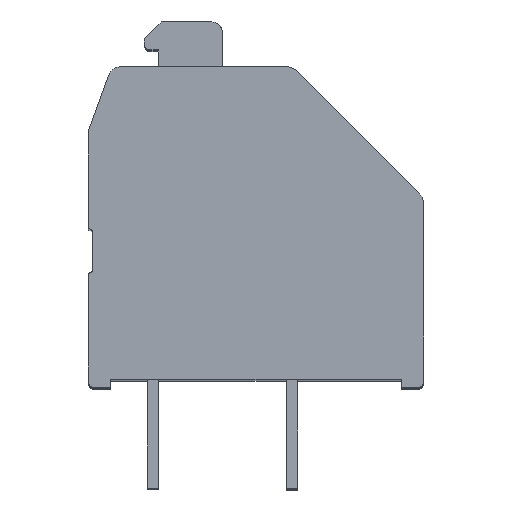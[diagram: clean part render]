
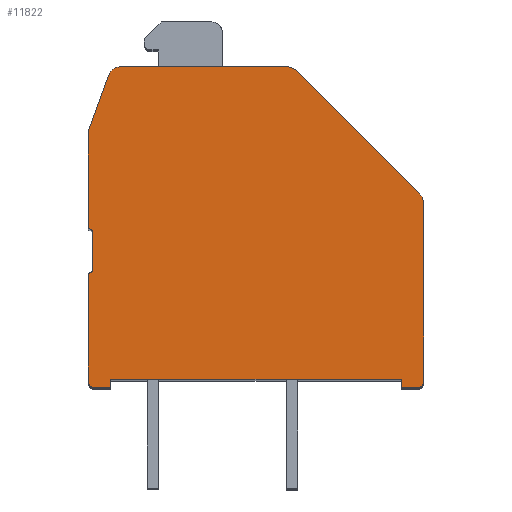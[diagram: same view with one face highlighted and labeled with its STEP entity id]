
A CAD part, top view. The second image highlights one B-rep face of the part: STEP entity #11822.
In plain terms, the highlighted planar face has unit normal (0, 0, 1).
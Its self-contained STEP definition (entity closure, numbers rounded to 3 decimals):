
#62=CIRCLE('',#12213,0.5);
#149=CIRCLE('',#12517,0.15);
#151=CIRCLE('',#12521,0.15);
#153=CIRCLE('',#12526,0.5);
#155=CIRCLE('',#12529,0.5);
#214=CIRCLE('',#12731,0.2);
#215=CIRCLE('',#12737,0.2);
#481=PLANE('',#12738);
#788=LINE('',#16540,#2203);
#1203=LINE('',#17609,#2618);
#1415=LINE('',#18130,#2830);
#1420=LINE('',#18141,#2835);
#1425=LINE('',#18155,#2840);
#1432=LINE('',#18172,#2847);
#1515=LINE('',#18312,#2930);
#1520=LINE('',#18328,#2935);
#1695=LINE('',#18823,#3110);
#1696=LINE('',#18825,#3111);
#1698=LINE('',#18829,#3113);
#1700=LINE('',#18833,#3115);
#2203=VECTOR('',#13167,1000.);
#2618=VECTOR('',#14092,1000.);
#2830=VECTOR('',#14526,1000.);
#2835=VECTOR('',#14533,1000.);
#2840=VECTOR('',#14546,1000.);
#2847=VECTOR('',#14561,1000.);
#2930=VECTOR('',#14646,1000.);
#2935=VECTOR('',#14665,1000.);
#3110=VECTOR('',#15244,1000.);
#3111=VECTOR('',#15247,1000.);
#3113=VECTOR('',#15251,1000.);
#3115=VECTOR('',#15255,1000.);
#5577=ORIENTED_EDGE('',*,*,#7922,.T.);
#5578=ORIENTED_EDGE('',*,*,#7926,.F.);
#5579=ORIENTED_EDGE('',*,*,#7929,.T.);
#5580=ORIENTED_EDGE('',*,*,#7932,.F.);
#5581=ORIENTED_EDGE('',*,*,#7938,.T.);
#5582=ORIENTED_EDGE('',*,*,#8262,.T.);
#5583=ORIENTED_EDGE('',*,*,#8264,.T.);
#5584=ORIENTED_EDGE('',*,*,#8265,.T.);
#5585=ORIENTED_EDGE('',*,*,#7917,.T.);
#5586=ORIENTED_EDGE('',*,*,#8267,.T.);
#5587=ORIENTED_EDGE('',*,*,#8269,.T.);
#5588=ORIENTED_EDGE('',*,*,#8270,.T.);
#5589=ORIENTED_EDGE('',*,*,#8021,.T.);
#5590=ORIENTED_EDGE('',*,*,#8025,.T.);
#5591=ORIENTED_EDGE('',*,*,#7108,.T.);
#5592=ORIENTED_EDGE('',*,*,#7180,.T.);
#5593=ORIENTED_EDGE('',*,*,#7651,.T.);
#5594=ORIENTED_EDGE('',*,*,#8028,.T.);
#5595=ORIENTED_EDGE('',*,*,#8030,.T.);
#7108=EDGE_CURVE('',#8846,#8845,#788,.T.);
#7180=EDGE_CURVE('',#8845,#8903,#62,.T.);
#7651=EDGE_CURVE('',#8903,#9244,#1203,.T.);
#7917=EDGE_CURVE('',#9443,#9442,#1415,.T.);
#7922=EDGE_CURVE('',#9448,#9447,#1420,.T.);
#7926=EDGE_CURVE('',#9450,#9447,#149,.T.);
#7929=EDGE_CURVE('',#9450,#9452,#1425,.T.);
#7932=EDGE_CURVE('',#9454,#9452,#151,.T.);
#7938=EDGE_CURVE('',#9454,#9458,#1432,.T.);
#8021=EDGE_CURVE('',#9515,#9514,#1515,.T.);
#8025=EDGE_CURVE('',#9514,#8846,#153,.T.);
#8028=EDGE_CURVE('',#9244,#9518,#155,.T.);
#8030=EDGE_CURVE('',#9518,#9448,#1520,.T.);
#8262=EDGE_CURVE('',#9458,#9635,#214,.T.);
#8264=EDGE_CURVE('',#9635,#9636,#1695,.T.);
#8265=EDGE_CURVE('',#9636,#9443,#1696,.T.);
#8267=EDGE_CURVE('',#9442,#9637,#1698,.T.);
#8269=EDGE_CURVE('',#9637,#9638,#1700,.T.);
#8270=EDGE_CURVE('',#9638,#9515,#215,.T.);
#8845=VERTEX_POINT('',#16539);
#8846=VERTEX_POINT('',#16541);
#8903=VERTEX_POINT('',#16682);
#9244=VERTEX_POINT('',#17608);
#9442=VERTEX_POINT('',#18129);
#9443=VERTEX_POINT('',#18131);
#9447=VERTEX_POINT('',#18140);
#9448=VERTEX_POINT('',#18142);
#9450=VERTEX_POINT('',#18148);
#9452=VERTEX_POINT('',#18154);
#9454=VERTEX_POINT('',#18160);
#9458=VERTEX_POINT('',#18171);
#9514=VERTEX_POINT('',#18311);
#9515=VERTEX_POINT('',#18313);
#9518=VERTEX_POINT('',#18324);
#9635=VERTEX_POINT('',#18818);
#9636=VERTEX_POINT('',#18822);
#9637=VERTEX_POINT('',#18828);
#9638=VERTEX_POINT('',#18832);
#10401=EDGE_LOOP('',(#5577,#5578,#5579,#5580,#5581,#5582,#5583,#5584,#5585,
#5586,#5587,#5588,#5589,#5590,#5591,#5592,#5593,#5594,#5595));
#11066=FACE_BOUND('',#10401,.T.);
#11822=ADVANCED_FACE('',(#11066),#481,.T.);
#12213=AXIS2_PLACEMENT_3D('',#16683,#13317,#13318);
#12517=AXIS2_PLACEMENT_3D('',#18149,#14540,#14541);
#12521=AXIS2_PLACEMENT_3D('',#18161,#14552,#14553);
#12526=AXIS2_PLACEMENT_3D('',#18319,#14653,#14654);
#12529=AXIS2_PLACEMENT_3D('',#18325,#14660,#14661);
#12731=AXIS2_PLACEMENT_3D('',#18819,#15239,#15240);
#12737=AXIS2_PLACEMENT_3D('',#18835,#15258,#15259);
#12738=AXIS2_PLACEMENT_3D('',#18836,#15260,#15261);
#13167=DIRECTION('',(-0.707,0.707,0.));
#13317=DIRECTION('',(0.,0.,1.));
#13318=DIRECTION('',(1.,0.,0.));
#14092=DIRECTION('',(-1.,0.,0.));
#14526=DIRECTION('',(1.,0.,0.));
#14533=DIRECTION('',(0.,-1.,0.));
#14540=DIRECTION('',(0.,0.,1.));
#14541=DIRECTION('',(1.,0.,0.));
#14546=DIRECTION('',(0.,-1.,0.));
#14552=DIRECTION('',(0.,0.,1.));
#14553=DIRECTION('',(1.,0.,0.));
#14561=DIRECTION('',(0.,-1.,0.));
#14646=DIRECTION('',(0.,1.,0.));
#14653=DIRECTION('',(0.,0.,1.));
#14654=DIRECTION('',(1.,0.,0.));
#14660=DIRECTION('',(0.,0.,1.));
#14661=DIRECTION('',(1.,0.,0.));
#14665=DIRECTION('',(-0.342,-0.94,0.));
#15239=DIRECTION('',(0.,0.,1.));
#15240=DIRECTION('',(1.,0.,0.));
#15244=DIRECTION('',(1.,0.,0.));
#15247=DIRECTION('',(0.,1.,0.));
#15251=DIRECTION('',(0.,-1.,0.));
#15255=DIRECTION('',(1.,0.,0.));
#15258=DIRECTION('',(0.,0.,1.));
#15259=DIRECTION('',(1.,0.,0.));
#15260=DIRECTION('',(0.,0.,1.));
#15261=DIRECTION('',(1.,0.,0.));
#16539=CARTESIAN_POINT('',(0.146,11.354,37.06));
#16540=CARTESIAN_POINT('',(4.554,6.946,37.06));
#16541=CARTESIAN_POINT('',(4.554,6.946,37.06));
#16682=CARTESIAN_POINT('',(-0.207,11.5,37.06));
#16683=CARTESIAN_POINT('',(-0.207,11.,37.06));
#17608=CARTESIAN_POINT('',(-6.113,11.5,37.06));
#17609=CARTESIAN_POINT('',(-0.207,11.5,37.06));
#18129=CARTESIAN_POINT('',(3.9,0.3,37.06));
#18130=CARTESIAN_POINT('',(-6.5,0.3,37.06));
#18131=CARTESIAN_POINT('',(-6.5,0.3,37.06));
#18140=CARTESIAN_POINT('',(-7.3,5.7,37.06));
#18141=CARTESIAN_POINT('',(-7.3,9.2,37.06));
#18142=CARTESIAN_POINT('',(-7.3,9.2,37.06));
#18148=CARTESIAN_POINT('',(-7.15,5.55,37.06));
#18149=CARTESIAN_POINT('',(-7.3,5.55,37.06));
#18154=CARTESIAN_POINT('',(-7.15,4.25,37.06));
#18155=CARTESIAN_POINT('',(-7.15,5.55,37.06));
#18160=CARTESIAN_POINT('',(-7.3,4.1,37.06));
#18161=CARTESIAN_POINT('',(-7.3,4.25,37.06));
#18171=CARTESIAN_POINT('',(-7.3,0.2,37.06));
#18172=CARTESIAN_POINT('',(-7.3,4.1,37.06));
#18311=CARTESIAN_POINT('',(4.7,6.593,37.06));
#18312=CARTESIAN_POINT('',(4.7,0.2,37.06));
#18313=CARTESIAN_POINT('',(4.7,0.2,37.06));
#18319=CARTESIAN_POINT('',(4.2,6.593,37.06));
#18324=CARTESIAN_POINT('',(-6.583,11.171,37.06));
#18325=CARTESIAN_POINT('',(-6.113,11.,37.06));
#18328=CARTESIAN_POINT('',(-6.583,11.171,37.06));
#18818=CARTESIAN_POINT('',(-7.1,0.,37.06));
#18819=CARTESIAN_POINT('',(-7.1,0.2,37.06));
#18822=CARTESIAN_POINT('',(-6.5,0.,37.06));
#18823=CARTESIAN_POINT('',(-7.1,0.,37.06));
#18825=CARTESIAN_POINT('',(-6.5,0.,37.06));
#18828=CARTESIAN_POINT('',(3.9,0.,37.06));
#18829=CARTESIAN_POINT('',(3.9,0.3,37.06));
#18832=CARTESIAN_POINT('',(4.5,0.,37.06));
#18833=CARTESIAN_POINT('',(3.9,0.,37.06));
#18835=CARTESIAN_POINT('',(4.5,0.2,37.06));
#18836=CARTESIAN_POINT('',(-7.3,5.55,37.06));
